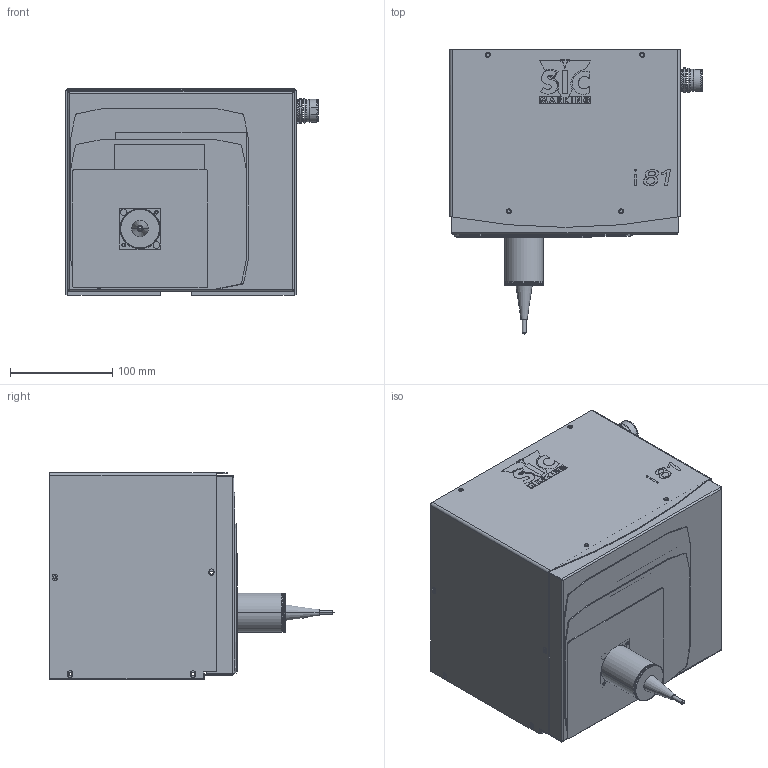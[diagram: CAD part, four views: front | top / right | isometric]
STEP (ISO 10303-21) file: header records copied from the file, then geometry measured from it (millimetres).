
FILE_DESCRIPTION (( 'STEP AP203' ), '1' );
FILE_NAME ('i81stylet de 80.STEP', '2010-09-08T08:38:21', ( ' ' ), ( ' ' ), 'SwSTEP 2.0', 'SolidWorks 2008', '' );
FILE_SCHEMA (( 'CONFIG_CONTROL_DESIGN' ));
Products named in the file (1): i81stylet de 80
Bounding box: 246.5 x 278 x 201.6 mm (x, y, z)
Surface area: 482603.8 mm2 (no closed solid volume)
Topology: 0 solids, 26 shells, 645 faces, 3320 edges, 2541 vertices
Faces by surface type: cylinder 312, plane 240, sphere 38, bspline 30, cone 13, torus 12
Entity records: 37638 total; most frequent: CARTESIAN_POINT 11269, DIRECTION 6123, ORIENTED_EDGE 4560, EDGE_CURVE 3242, VERTEX_POINT 2503, AXIS2_PLACEMENT_3D 2372, CIRCLE 1756, VECTOR 1379
